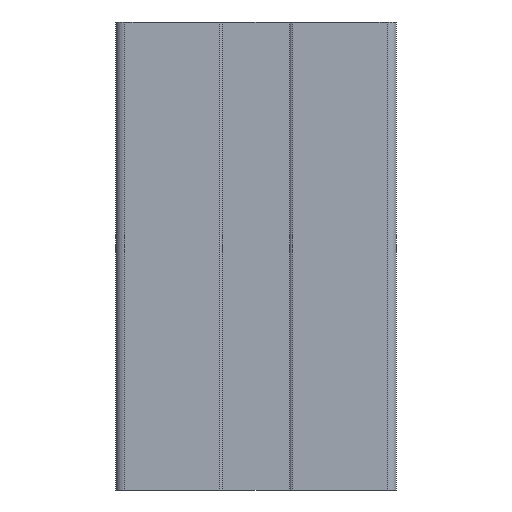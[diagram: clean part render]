
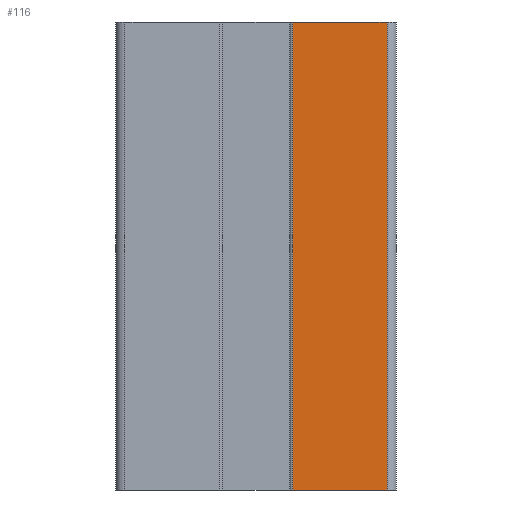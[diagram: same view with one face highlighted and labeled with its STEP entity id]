
A CAD part, left-side view. The second image highlights one B-rep face of the part: STEP entity #116.
In plain terms, the highlighted planar face has unit normal (-1, 0, 0).
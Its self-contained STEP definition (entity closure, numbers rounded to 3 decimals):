
#116=ADVANCED_FACE('',(#314),#315,.F.);
#314=FACE_OUTER_BOUND('',#591,.T.);
#315=PLANE('',#592);
#591=EDGE_LOOP('',(#867,#868,#869,#870));
#592=AXIS2_PLACEMENT_3D('',#871,#872,#873);
#867=ORIENTED_EDGE('',*,*,#1752,.T.);
#868=ORIENTED_EDGE('',*,*,#1753,.F.);
#869=ORIENTED_EDGE('',*,*,#1754,.F.);
#870=ORIENTED_EDGE('',*,*,#1755,.T.);
#871=CARTESIAN_POINT('',(0.0,11.1,50.0));
#872=DIRECTION('',(1.0,0.,0.0));
#873=DIRECTION('',(0.,1.0,0.0));
#1752=EDGE_CURVE('',#2110,#2111,#2112,.T.);
#1753=EDGE_CURVE('',#2113,#2111,#2114,.T.);
#1754=EDGE_CURVE('',#2115,#2113,#2116,.T.);
#1755=EDGE_CURVE('',#2115,#2110,#2117,.T.);
#2110=VERTEX_POINT('',#2644);
#2111=VERTEX_POINT('',#2645);
#2112=LINE('',#2646,#2647);
#2113=VERTEX_POINT('',#2648);
#2114=LINE('',#2649,#2650);
#2115=VERTEX_POINT('',#2651);
#2116=LINE('',#2652,#2653);
#2117=LINE('',#2654,#2655);
#2644=CARTESIAN_POINT('',(0.0,11.1,0.0));
#2645=CARTESIAN_POINT('',(0.,1.0,0.0));
#2646=CARTESIAN_POINT('',(0.0,11.1,0.0));
#2647=VECTOR('',#3340,1.0);
#2648=CARTESIAN_POINT('',(0.,1.0,50.0));
#2649=CARTESIAN_POINT('',(0.,1.0,50.0));
#2650=VECTOR('',#3341,1.0);
#2651=CARTESIAN_POINT('',(0.0,11.1,50.0));
#2652=CARTESIAN_POINT('',(0.0,11.1,50.0));
#2653=VECTOR('',#3342,1.0);
#2654=CARTESIAN_POINT('',(0.0,11.1,50.0));
#2655=VECTOR('',#3343,1.0);
#3340=DIRECTION('',(0.,-1.0,0.0));
#3341=DIRECTION('',(0.0,0.0,-1.0));
#3342=DIRECTION('',(0.,-1.0,0.0));
#3343=DIRECTION('',(0.0,0.0,-1.0));
